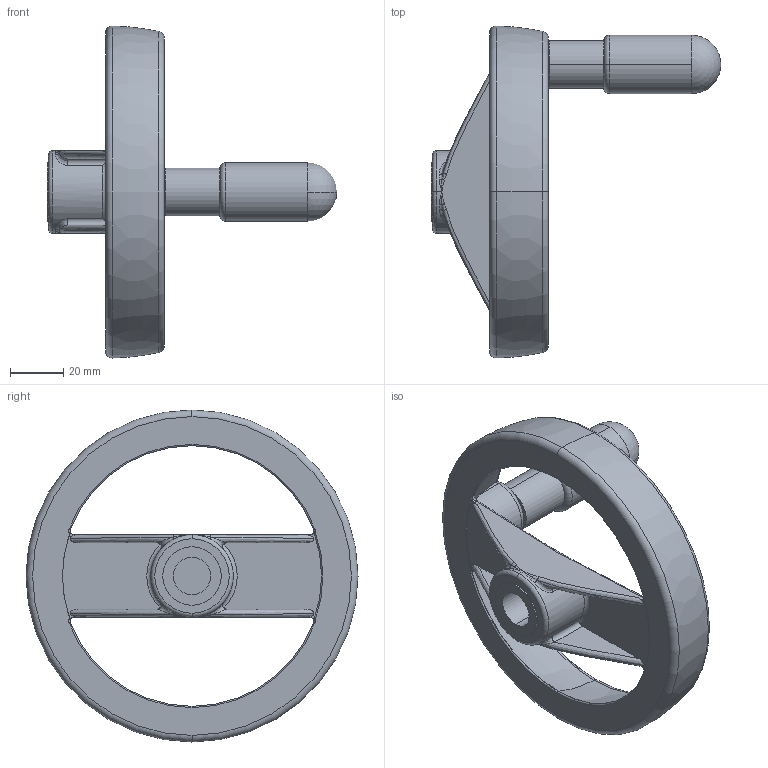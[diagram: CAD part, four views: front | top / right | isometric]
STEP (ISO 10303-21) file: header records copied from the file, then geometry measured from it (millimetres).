
FILE_DESCRIPTION (( 'STEP AP214' ), '1' );
FILE_NAME ('522-125-B14-R.step', '2020-05-15T14:39:32', ( '' ), ( '' ), 'SwSTEP 2.0', 'SolidWorks 2019', '' );
FILE_SCHEMA (( 'AUTOMOTIVE_DESIGN' ));
Length unit declared in the file: millimetre
Products named in the file (1): 522-125-B14-R
Bounding box: 109 x 124.93 x 124.93 mm (x, y, z)
Volume: 123477 mm3; surface area: 37873.6 mm2
Topology: 1 solids, 1 shells, 114 faces, 285 edges, 164 vertices
Faces by surface type: bspline 38, torus 35, cylinder 22, plane 15, sphere 2, cone 2
Entity records: 5419 total; most frequent: CARTESIAN_POINT 2849, ORIENTED_EDGE 550, DIRECTION 468, EDGE_CURVE 275, AXIS2_PLACEMENT_3D 217, VERTEX_POINT 164, CIRCLE 140, EDGE_LOOP 119
